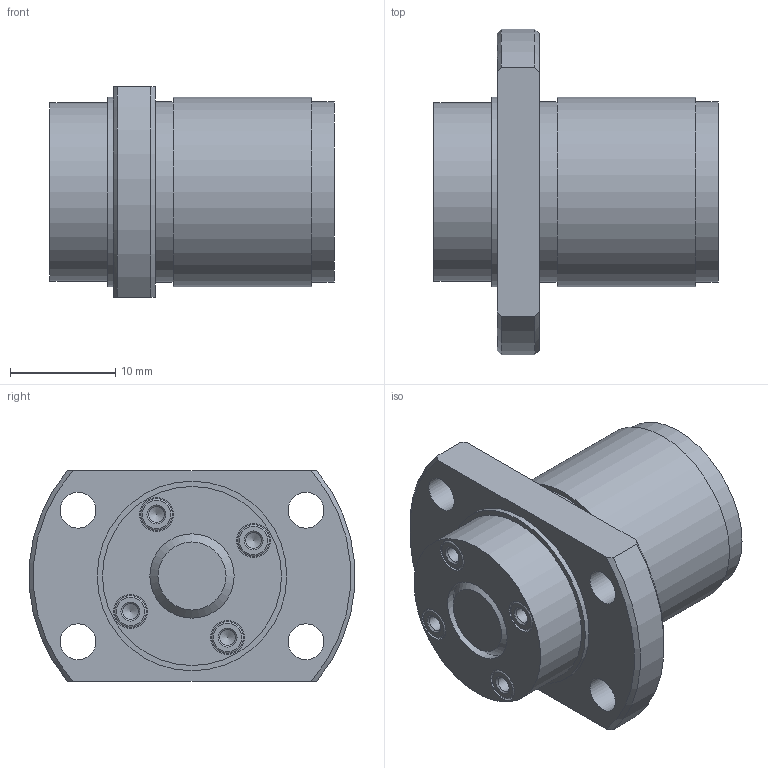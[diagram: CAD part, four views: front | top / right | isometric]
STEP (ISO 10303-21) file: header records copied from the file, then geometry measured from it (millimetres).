
FILE_DESCRIPTION(/* description */ ('STEP AP203'),/* implementation_level */ '2;1');
FILE_NAME(/* name */ 'WGF0812-3G1+27LC3_0_13_0_0',/* time_stamp */ '2025-01-16T06:24:03+01:00',/* author */ ('License CC BY-ND 4.0'),/* organization */ ('CADENAS'),/* preprocessor_version */ 'ST-DEVELOPER v19.3',/* originating_system */ 'PARTsolutions',/* authorisation */ ' ');
FILE_SCHEMA (('CONFIG_CONTROL_DESIGN'));
Length unit declared in the file: millimetre
Products named in the file (3): WGF0812-3G1+27LC3_0_13_0_0; 0130WGF0812-30Shaft; RR0130WGF0812-3Nut
Assembly tree (2 placements, depth 2):
  WGF0812-3G1+27LC3_0_13_0_0
    0130WGF0812-30Shaft
    RR0130WGF0812-3Nut
Bounding box: 27 x 30.91 x 20 mm (x, y, z)
Volume: 7717.2 mm3; surface area: 4421.3 mm2
Topology: 2 solids, 2 shells, 62 faces, 123 edges, 78 vertices
Faces by surface type: cylinder 25, plane 19, cone 14, torus 4
Full cylindrical faces by diameter (mm): 1.5 x4, 3 x4, 3.2 x4, 3.4 x4, 8 x2, 17 x1, 17.1 x2, 18 x2
Entity records: 1495 total; most frequent: DIRECTION 266, CARTESIAN_POINT 245, ORIENTED_EDGE 160, AXIS2_PLACEMENT_3D 129, FACE_BOUND 126, EDGE_LOOP 122, EDGE_CURVE 80, VERTEX_POINT 76
